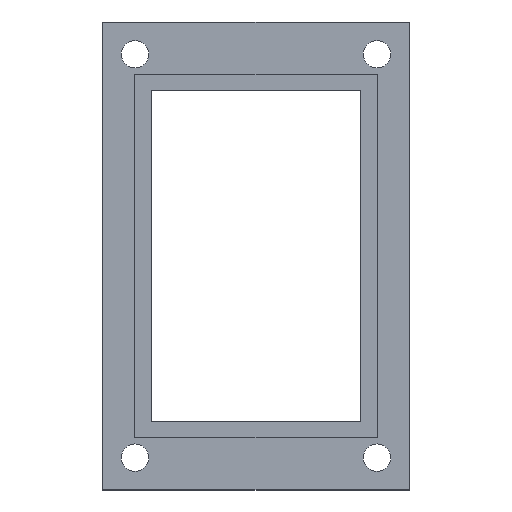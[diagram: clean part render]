
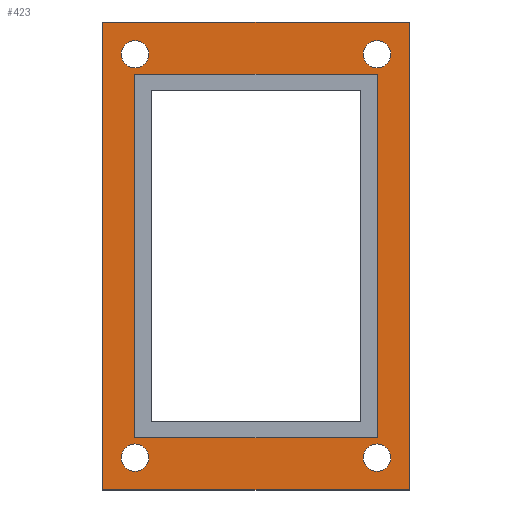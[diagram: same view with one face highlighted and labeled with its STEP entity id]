
A CAD part, top view. The second image highlights one B-rep face of the part: STEP entity #423.
In plain terms, the highlighted planar face has unit normal (0, 0, 1).
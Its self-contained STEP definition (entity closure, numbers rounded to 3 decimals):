
#20=FACE_BOUND('',#87,.T.);
#21=FACE_BOUND('',#88,.T.);
#22=FACE_BOUND('',#89,.T.);
#23=FACE_BOUND('',#90,.T.);
#24=FACE_BOUND('',#91,.T.);
#31=PLANE('',#481);
#58=FACE_OUTER_BOUND('',#86,.T.);
#86=EDGE_LOOP('',(#354,#355,#356,#357));
#87=EDGE_LOOP('',(#358));
#88=EDGE_LOOP('',(#359));
#89=EDGE_LOOP('',(#360));
#90=EDGE_LOOP('',(#361));
#91=EDGE_LOOP('',(#362,#363,#364,#365));
#126=LINE('',#684,#170);
#127=LINE('',#686,#171);
#128=LINE('',#688,#172);
#129=LINE('',#689,#173);
#130=LINE('',#692,#174);
#131=LINE('',#694,#175);
#132=LINE('',#696,#176);
#133=LINE('',#697,#177);
#170=VECTOR('',#569,1000.);
#171=VECTOR('',#570,1000.);
#172=VECTOR('',#571,1000.);
#173=VECTOR('',#572,1000.);
#174=VECTOR('',#573,1000.);
#175=VECTOR('',#574,1000.);
#176=VECTOR('',#575,1000.);
#177=VECTOR('',#576,1000.);
#192=CIRCLE('',#460,1.7);
#195=CIRCLE('',#465,1.7);
#198=CIRCLE('',#470,1.7);
#201=CIRCLE('',#475,1.7);
#204=VERTEX_POINT('',#615);
#207=VERTEX_POINT('',#625);
#210=VERTEX_POINT('',#635);
#213=VERTEX_POINT('',#645);
#226=VERTEX_POINT('',#682);
#227=VERTEX_POINT('',#683);
#228=VERTEX_POINT('',#685);
#229=VERTEX_POINT('',#687);
#230=VERTEX_POINT('',#690);
#231=VERTEX_POINT('',#691);
#232=VERTEX_POINT('',#693);
#233=VERTEX_POINT('',#695);
#241=EDGE_CURVE('',#204,#204,#192,.T.);
#246=EDGE_CURVE('',#207,#207,#195,.T.);
#251=EDGE_CURVE('',#210,#210,#198,.T.);
#256=EDGE_CURVE('',#213,#213,#201,.T.);
#274=EDGE_CURVE('',#226,#227,#126,.T.);
#275=EDGE_CURVE('',#227,#228,#127,.T.);
#276=EDGE_CURVE('',#228,#229,#128,.T.);
#277=EDGE_CURVE('',#229,#226,#129,.T.);
#278=EDGE_CURVE('',#230,#231,#130,.T.);
#279=EDGE_CURVE('',#232,#230,#131,.T.);
#280=EDGE_CURVE('',#233,#232,#132,.T.);
#281=EDGE_CURVE('',#231,#233,#133,.T.);
#354=ORIENTED_EDGE('',*,*,#274,.T.);
#355=ORIENTED_EDGE('',*,*,#275,.T.);
#356=ORIENTED_EDGE('',*,*,#276,.T.);
#357=ORIENTED_EDGE('',*,*,#277,.T.);
#358=ORIENTED_EDGE('',*,*,#241,.F.);
#359=ORIENTED_EDGE('',*,*,#246,.F.);
#360=ORIENTED_EDGE('',*,*,#251,.F.);
#361=ORIENTED_EDGE('',*,*,#256,.F.);
#362=ORIENTED_EDGE('',*,*,#278,.F.);
#363=ORIENTED_EDGE('',*,*,#279,.F.);
#364=ORIENTED_EDGE('',*,*,#280,.F.);
#365=ORIENTED_EDGE('',*,*,#281,.F.);
#423=ADVANCED_FACE('',(#58,#20,#21,#22,#23,#24),#31,.T.);
#460=AXIS2_PLACEMENT_3D('',#616,#502,#503);
#465=AXIS2_PLACEMENT_3D('',#626,#514,#515);
#470=AXIS2_PLACEMENT_3D('',#636,#526,#527);
#475=AXIS2_PLACEMENT_3D('',#646,#538,#539);
#481=AXIS2_PLACEMENT_3D('',#681,#567,#568);
#502=DIRECTION('center_axis',(0.,0.,1.));
#503=DIRECTION('ref_axis',(1.,0.,0.));
#514=DIRECTION('center_axis',(0.,0.,1.));
#515=DIRECTION('ref_axis',(1.,0.,0.));
#526=DIRECTION('center_axis',(0.,0.,1.));
#527=DIRECTION('ref_axis',(1.,0.,0.));
#538=DIRECTION('center_axis',(0.,0.,1.));
#539=DIRECTION('ref_axis',(1.,0.,0.));
#567=DIRECTION('center_axis',(0.,0.,1.));
#568=DIRECTION('ref_axis',(1.,0.,0.));
#569=DIRECTION('',(0.,1.,0.));
#570=DIRECTION('',(-1.,0.,0.));
#571=DIRECTION('',(0.,-1.,0.));
#572=DIRECTION('',(1.,0.,0.));
#573=DIRECTION('',(0.,-1.,0.));
#574=DIRECTION('',(-1.,0.,0.));
#575=DIRECTION('',(0.,1.,0.));
#576=DIRECTION('',(1.,0.,0.));
#615=CARTESIAN_POINT('',(16.7,25.,2.));
#616=CARTESIAN_POINT('Origin',(15.,25.,2.));
#625=CARTESIAN_POINT('',(-13.3,25.,2.));
#626=CARTESIAN_POINT('Origin',(-15.,25.,2.));
#635=CARTESIAN_POINT('',(-13.3,-25.,2.));
#636=CARTESIAN_POINT('Origin',(-15.,-25.,2.));
#645=CARTESIAN_POINT('',(16.7,-25.,2.));
#646=CARTESIAN_POINT('Origin',(15.,-25.,2.));
#681=CARTESIAN_POINT('Origin',(0.,0.,2.));
#682=CARTESIAN_POINT('',(19.,-29.,2.));
#683=CARTESIAN_POINT('',(19.,29.,2.));
#684=CARTESIAN_POINT('',(19.,29.,2.));
#685=CARTESIAN_POINT('',(-19.,29.,2.));
#686=CARTESIAN_POINT('',(-19.,29.,2.));
#687=CARTESIAN_POINT('',(-19.,-29.,2.));
#688=CARTESIAN_POINT('',(-19.,29.,2.));
#689=CARTESIAN_POINT('',(-19.,-29.,2.));
#690=CARTESIAN_POINT('',(-15.,22.5,2.));
#691=CARTESIAN_POINT('',(-15.,-22.5,2.));
#692=CARTESIAN_POINT('',(-15.,-22.5,2.));
#693=CARTESIAN_POINT('',(15.,22.5,2.));
#694=CARTESIAN_POINT('',(15.,22.5,2.));
#695=CARTESIAN_POINT('',(15.,-22.5,2.));
#696=CARTESIAN_POINT('',(15.,-22.5,2.));
#697=CARTESIAN_POINT('',(15.,-22.5,2.));
